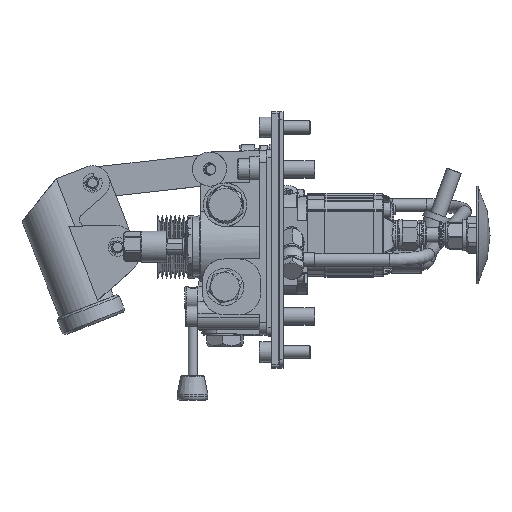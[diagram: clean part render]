
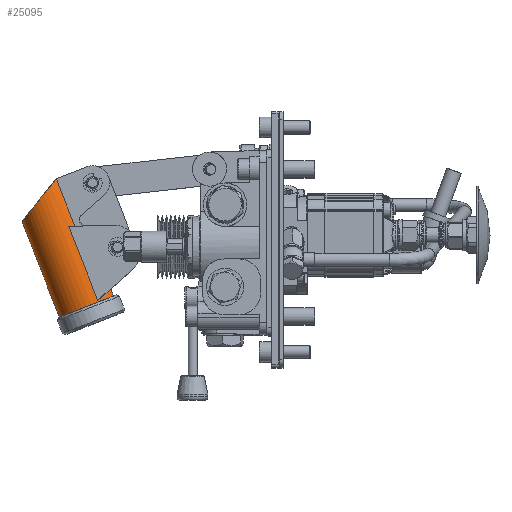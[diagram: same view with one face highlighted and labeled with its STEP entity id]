
A CAD part, top view. The second image highlights one B-rep face of the part: STEP entity #25095.
In plain terms, the highlighted cylindrical face has radius 19.5 mm (diameter 39 mm), a partial arc.
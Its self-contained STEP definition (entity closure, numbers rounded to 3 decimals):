
#255=B_SPLINE_CURVE_WITH_KNOTS('',3,(#42294,#42295,#42296,#42297,#42298,
#42299),.UNSPECIFIED.,.F.,.F.,(4,1,1,4),(0.039,0.043,
0.045,0.047),.UNSPECIFIED.);
#256=B_SPLINE_CURVE_WITH_KNOTS('',3,(#42302,#42303,#42304,#42305,#42306),
 .UNSPECIFIED.,.F.,.F.,(4,1,4),(0.,0.004,0.009),
 .UNSPECIFIED.);
#259=B_SPLINE_CURVE_WITH_KNOTS('',3,(#42332,#42333,#42334,#42335,#42336,
#42337,#42338),.UNSPECIFIED.,.F.,.F.,(4,1,1,1,4),(0.015,0.019,
0.024,0.028,0.032),.UNSPECIFIED.);
#260=B_SPLINE_CURVE_WITH_KNOTS('',3,(#42358,#42359,#42360,#42361,#42362),
 .UNSPECIFIED.,.F.,.F.,(4,1,4),(0.009,0.012,0.015),
 .UNSPECIFIED.);
#261=B_SPLINE_CURVE_WITH_KNOTS('',3,(#42383,#42384,#42385,#42386,#42387),
 .UNSPECIFIED.,.F.,.F.,(4,1,4),(0.032,0.036,0.039),
 .UNSPECIFIED.);
#851=ELLIPSE('',#30186,20.751,19.5);
#853=ELLIPSE('',#30200,22.517,19.5);
#854=ELLIPSE('',#30203,20.751,19.5);
#855=ELLIPSE('',#30248,20.751,19.5);
#856=ELLIPSE('',#30254,20.751,19.5);
#1926=LINE('',#42187,#3659);
#1930=LINE('',#42205,#3663);
#1953=LINE('',#42271,#3686);
#1955=LINE('',#42275,#3688);
#1960=LINE('',#42403,#3693);
#1961=LINE('',#42404,#3694);
#1966=LINE('',#42419,#3699);
#3659=VECTOR('',#34043,1000.);
#3663=VECTOR('',#34059,1000.);
#3686=VECTOR('',#34124,1000.);
#3688=VECTOR('',#34126,1000.);
#3693=VECTOR('',#34199,1000.);
#3694=VECTOR('',#34200,1000.);
#3699=VECTOR('',#34215,1000.);
#6337=ORIENTED_EDGE('',*,*,#12315,.F.);
#6338=ORIENTED_EDGE('',*,*,#12312,.T.);
#6339=ORIENTED_EDGE('',*,*,#12229,.T.);
#6340=ORIENTED_EDGE('',*,*,#12240,.T.);
#6341=ORIENTED_EDGE('',*,*,#12238,.F.);
#6342=ORIENTED_EDGE('',*,*,#12301,.T.);
#6343=ORIENTED_EDGE('',*,*,#12307,.F.);
#6344=ORIENTED_EDGE('',*,*,#12281,.F.);
#6345=ORIENTED_EDGE('',*,*,#12297,.F.);
#6346=ORIENTED_EDGE('',*,*,#12290,.F.);
#6347=ORIENTED_EDGE('',*,*,#12293,.F.);
#6348=ORIENTED_EDGE('',*,*,#12282,.F.);
#6349=ORIENTED_EDGE('',*,*,#12306,.F.);
#6350=ORIENTED_EDGE('',*,*,#12253,.F.);
#6351=ORIENTED_EDGE('',*,*,#12274,.T.);
#6352=ORIENTED_EDGE('',*,*,#12278,.T.);
#6353=ORIENTED_EDGE('',*,*,#12272,.T.);
#6354=ORIENTED_EDGE('',*,*,#12215,.F.);
#12215=EDGE_CURVE('',#20265,#20266,#851,.T.);
#12229=EDGE_CURVE('',#20279,#20256,#1926,.F.);
#12238=EDGE_CURVE('',#20286,#20255,#1930,.F.);
#12240=EDGE_CURVE('',#20256,#20255,#853,.T.);
#12253=EDGE_CURVE('',#20300,#20297,#854,.T.);
#12272=EDGE_CURVE('',#20309,#20266,#1953,.F.);
#12274=EDGE_CURVE('',#20300,#20310,#1955,.T.);
#12278=EDGE_CURVE('',#20310,#20309,#15779,.T.);
#12281=EDGE_CURVE('',#20316,#20317,#255,.T.);
#12282=EDGE_CURVE('',#20317,#20318,#256,.T.);
#12290=EDGE_CURVE('',#20325,#20326,#259,.T.);
#12293=EDGE_CURVE('',#20318,#20325,#260,.T.);
#12297=EDGE_CURVE('',#20326,#20316,#261,.T.);
#12301=EDGE_CURVE('',#20286,#20330,#855,.T.);
#12306=EDGE_CURVE('',#20297,#20317,#1960,.F.);
#12307=EDGE_CURVE('',#20317,#20330,#1961,.F.);
#12312=EDGE_CURVE('',#20333,#20279,#856,.T.);
#12315=EDGE_CURVE('',#20333,#20265,#1966,.T.);
#15779=CIRCLE('',#30224,19.5);
#17533=EDGE_LOOP('',(#6337,#6338,#6339,#6340,#6341,#6342,#6343,#6344,#6345,
#6346,#6347,#6348,#6349,#6350,#6351,#6352,#6353,#6354));
#19170=CYLINDRICAL_SURFACE('',#30259,19.5);
#20255=VERTEX_POINT('',#42135);
#20256=VERTEX_POINT('',#42137);
#20265=VERTEX_POINT('',#42157);
#20266=VERTEX_POINT('',#42159);
#20279=VERTEX_POINT('',#42188);
#20286=VERTEX_POINT('',#42204);
#20297=VERTEX_POINT('',#42230);
#20300=VERTEX_POINT('',#42236);
#20309=VERTEX_POINT('',#42272);
#20310=VERTEX_POINT('',#42274);
#20316=VERTEX_POINT('',#42300);
#20317=VERTEX_POINT('',#42301);
#20318=VERTEX_POINT('',#42307);
#20325=VERTEX_POINT('',#42339);
#20326=VERTEX_POINT('',#42340);
#20330=VERTEX_POINT('',#42395);
#20333=VERTEX_POINT('',#42408);
#23208=FACE_BOUND('',#17533,.T.);
#25095=ADVANCED_FACE('',(#23208),#19170,.T.);
#30186=AXIS2_PLACEMENT_3D('',#42158,#34021,#34022);
#30200=AXIS2_PLACEMENT_3D('',#42209,#34064,#34065);
#30203=AXIS2_PLACEMENT_3D('',#42237,#34082,#34083);
#30224=AXIS2_PLACEMENT_3D('',#42284,#34137,#34138);
#30248=AXIS2_PLACEMENT_3D('',#42396,#34188,#34189);
#30254=AXIS2_PLACEMENT_3D('',#42414,#34207,#34208);
#30259=AXIS2_PLACEMENT_3D('',#42421,#34218,#34219);
#34021=DIRECTION('',(-0.661,0.751,0.));
#34022=DIRECTION('',(-0.751,-0.661,0.));
#34043=DIRECTION('',(0.364,-0.931,0.));
#34059=DIRECTION('',(0.364,-0.931,0.));
#34064=DIRECTION('',(0.781,-0.624,0.));
#34065=DIRECTION('',(-0.624,-0.781,0.));
#34082=DIRECTION('',(-0.661,0.751,0.));
#34083=DIRECTION('',(-0.751,-0.661,0.));
#34124=DIRECTION('',(0.364,-0.931,0.));
#34126=DIRECTION('',(0.364,-0.931,0.));
#34137=DIRECTION('',(-0.364,0.931,0.));
#34138=DIRECTION('',(-0.931,-0.364,0.));
#34188=DIRECTION('',(-0.024,1.,0.));
#34189=DIRECTION('',(1.,0.024,0.));
#34199=DIRECTION('',(0.364,-0.931,0.));
#34200=DIRECTION('',(0.364,-0.931,0.));
#34207=DIRECTION('',(-0.024,1.,0.));
#34208=DIRECTION('',(1.,0.024,0.));
#34215=DIRECTION('',(0.364,-0.931,0.));
#34218=DIRECTION('',(0.364,-0.931,0.));
#34219=DIRECTION('',(0.931,0.364,0.));
#42135=CARTESIAN_POINT('',(-233.95,39.59,91.));
#42137=CARTESIAN_POINT('',(-233.95,39.59,123.));
#42157=CARTESIAN_POINT('',(-207.157,-38.918,125.));
#42158=CARTESIAN_POINT('',(-213.147,-44.192,107.));
#42159=CARTESIAN_POINT('',(-198.771,-31.534,114.5));
#42187=CARTESIAN_POINT('',(-233.95,39.59,123.));
#42188=CARTESIAN_POINT('',(-221.949,8.907,123.));
#42204=CARTESIAN_POINT('',(-221.949,8.907,91.));
#42205=CARTESIAN_POINT('',(-233.95,39.59,91.));
#42209=CARTESIAN_POINT('',(-241.987,29.536,107.));
#42230=CARTESIAN_POINT('',(-207.157,-38.918,89.));
#42236=CARTESIAN_POINT('',(-198.771,-31.534,99.5));
#42237=CARTESIAN_POINT('',(-213.147,-44.192,107.));
#42271=CARTESIAN_POINT('',(-227.568,42.087,114.5));
#42272=CARTESIAN_POINT('',(-196.968,-36.142,114.5));
#42274=CARTESIAN_POINT('',(-196.968,-36.142,99.5));
#42275=CARTESIAN_POINT('',(-227.568,42.087,99.5));
#42284=CARTESIAN_POINT('',(-213.732,-42.699,107.));
#42294=CARTESIAN_POINT('',(-227.161,0.179,87.75));
#42295=CARTESIAN_POINT('',(-225.735,0.1,87.96));
#42296=CARTESIAN_POINT('',(-223.652,-0.637,88.444));
#42297=CARTESIAN_POINT('',(-221.569,-2.649,88.911));
#42298=CARTESIAN_POINT('',(-220.856,-3.897,89.));
#42299=CARTESIAN_POINT('',(-220.59,-4.578,89.));
#42300=CARTESIAN_POINT('',(-227.161,0.179,87.75));
#42301=CARTESIAN_POINT('',(-220.59,-4.578,89.));
#42302=CARTESIAN_POINT('',(-220.59,-4.578,89.));
#42303=CARTESIAN_POINT('',(-220.058,-5.938,89.));
#42304=CARTESIAN_POINT('',(-219.823,-8.895,88.61));
#42305=CARTESIAN_POINT('',(-221.2,-11.51,87.959));
#42306=CARTESIAN_POINT('',(-222.19,-12.531,87.75));
#42307=CARTESIAN_POINT('',(-222.19,-12.531,87.75));
#42332=CARTESIAN_POINT('',(-227.987,-14.798,87.75));
#42333=CARTESIAN_POINT('',(-229.422,-14.719,87.961));
#42334=CARTESIAN_POINT('',(-232.177,-13.746,88.608));
#42335=CARTESIAN_POINT('',(-234.961,-10.207,89.196));
#42336=CARTESIAN_POINT('',(-235.324,-5.705,88.608));
#42337=CARTESIAN_POINT('',(-233.961,-3.122,87.962));
#42338=CARTESIAN_POINT('',(-232.959,-2.089,87.75));
#42339=CARTESIAN_POINT('',(-227.987,-14.798,87.75));
#42340=CARTESIAN_POINT('',(-232.959,-2.089,87.75));
#42358=CARTESIAN_POINT('',(-222.19,-12.531,87.75));
#42359=CARTESIAN_POINT('',(-222.925,-13.289,87.595));
#42360=CARTESIAN_POINT('',(-224.752,-14.512,87.406));
#42361=CARTESIAN_POINT('',(-226.921,-14.857,87.593));
#42362=CARTESIAN_POINT('',(-227.987,-14.798,87.75));
#42383=CARTESIAN_POINT('',(-232.959,-2.089,87.75));
#42384=CARTESIAN_POINT('',(-232.214,-1.321,87.593));
#42385=CARTESIAN_POINT('',(-230.396,-0.109,87.407));
#42386=CARTESIAN_POINT('',(-228.221,0.237,87.594));
#42387=CARTESIAN_POINT('',(-227.161,0.179,87.75));
#42395=CARTESIAN_POINT('',(-225.828,8.815,89.));
#42396=CARTESIAN_POINT('',(-233.807,8.625,107.));
#42403=CARTESIAN_POINT('',(-237.347,38.262,89.));
#42404=CARTESIAN_POINT('',(-237.347,38.262,89.));
#42408=CARTESIAN_POINT('',(-225.828,8.815,125.));
#42414=CARTESIAN_POINT('',(-233.807,8.625,107.));
#42419=CARTESIAN_POINT('',(-237.347,38.262,125.));
#42421=CARTESIAN_POINT('',(-244.331,35.53,107.));
